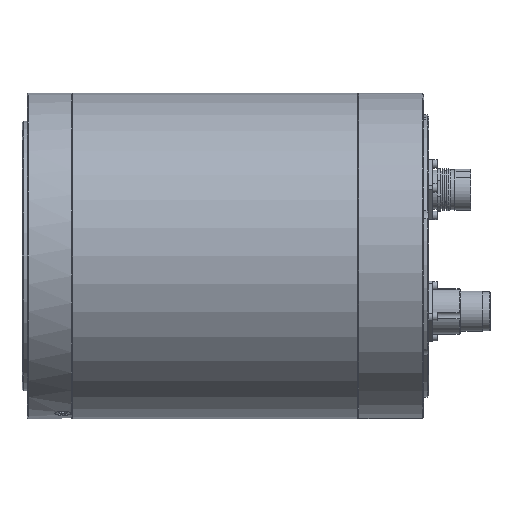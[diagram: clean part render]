
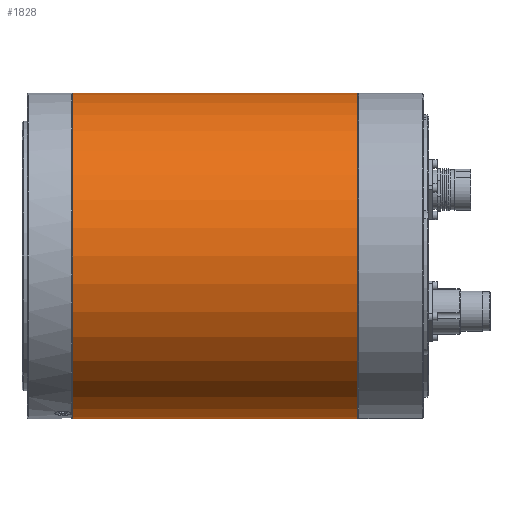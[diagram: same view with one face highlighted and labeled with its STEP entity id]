
A CAD part, front view. The second image highlights one B-rep face of the part: STEP entity #1828.
In plain terms, the highlighted cylindrical face has radius 89.5 mm (diameter 179 mm), a full revolution.
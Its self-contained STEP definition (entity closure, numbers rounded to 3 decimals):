
#1828 = ADVANCED_FACE( '', ( #3805, #3806 ), #3807, .T. );
#3805 = FACE_OUTER_BOUND( '', #5840, .T. );
#3806 = FACE_OUTER_BOUND( '', #5841, .T. );
#3807 = CYLINDRICAL_SURFACE( '', #5842, 89.5 );
#5840 = EDGE_LOOP( '', ( #9336 ) );
#5841 = EDGE_LOOP( '', ( #9337 ) );
#5842 = AXIS2_PLACEMENT_3D( '', #9338, #9339, #9340 );
#9336 = ORIENTED_EDGE( '', *, *, #10980, .T. );
#9337 = ORIENTED_EDGE( '', *, *, #10265, .T. );
#9338 = CARTESIAN_POINT( '', ( 0., -60., 0. ) );
#9339 = DIRECTION( '', ( 0., 1., 0. ) );
#9340 = DIRECTION( '', ( 0., 0., -1. ) );
#10265 = EDGE_CURVE( '', #12800, #12800, #12801, .F. );
#10980 = EDGE_CURVE( '', #13788, #13788, #13789, .F. );
#12800 = VERTEX_POINT( '', #15013 );
#12801 = CIRCLE( '', #15014, 89.5 );
#13788 = VERTEX_POINT( '', #16446 );
#13789 = CIRCLE( '', #16447, 89.5 );
#15013 = CARTESIAN_POINT( '', ( 0., 0.5, -89.5 ) );
#15014 = AXIS2_PLACEMENT_3D( '', #17671, #17672, #17673 );
#16446 = CARTESIAN_POINT( '', ( 0., 156.5, 89.5 ) );
#16447 = AXIS2_PLACEMENT_3D( '', #18621, #18622, #18623 );
#17671 = CARTESIAN_POINT( '', ( 0., 0.5, 0. ) );
#17672 = DIRECTION( '', ( 0., -1., 0. ) );
#17673 = DIRECTION( '', ( 0., 0., -1. ) );
#18621 = CARTESIAN_POINT( '', ( 0., 156.5, 0. ) );
#18622 = DIRECTION( '', ( 0., 1., 0. ) );
#18623 = DIRECTION( '', ( 0., 0., 1. ) );
